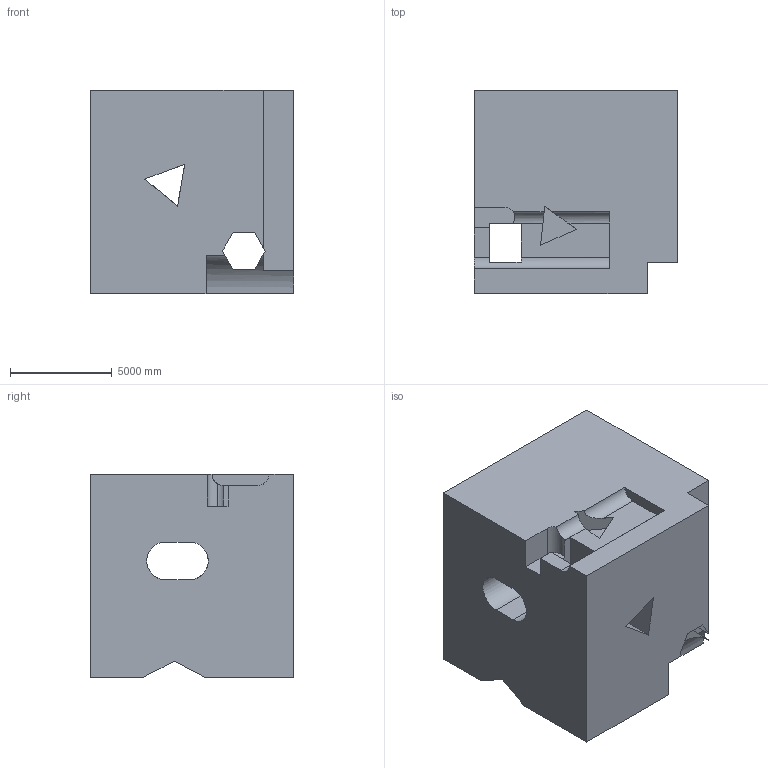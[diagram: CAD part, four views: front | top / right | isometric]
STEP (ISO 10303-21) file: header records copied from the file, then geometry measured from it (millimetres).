
FILE_DESCRIPTION (( 'STEP AP203' ), '1' );
FILE_NAME ('904.STEP', '2022-07-29T14:10:00', ( 'user' ), ( '' ), 'SwSTEP 2.0', 'SolidWorks 2021', '' );
FILE_SCHEMA (( 'CONFIG_CONTROL_DESIGN' ));
Length unit declared in the file: centimetre
Products named in the file (1): 904
Bounding box: 10000 x 10000 x 10000 mm (x, y, z)
Volume: 824491325222.7 mm3; surface area: 827262752.3 mm2
Topology: 1 solids, 1 shells, 49 faces, 153 edges, 102 vertices
Faces by surface type: plane 41, cylinder 8
Entity records: 1847 total; most frequent: CARTESIAN_POINT 406, ORIENTED_EDGE 306, DIRECTION 257, EDGE_CURVE 153, LINE 125, VECTOR 125, VERTEX_POINT 102, AXIS2_PLACEMENT_3D 66
